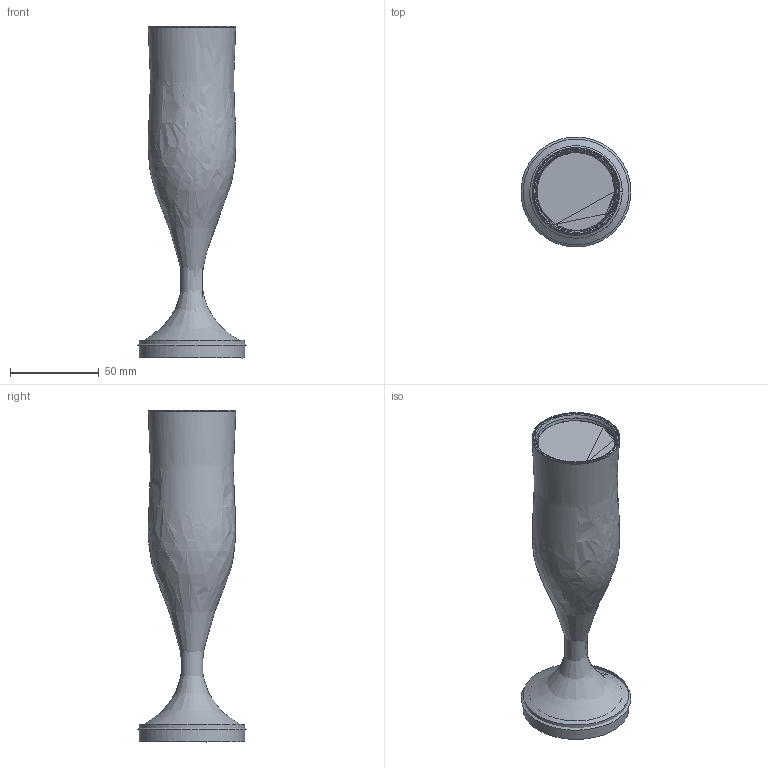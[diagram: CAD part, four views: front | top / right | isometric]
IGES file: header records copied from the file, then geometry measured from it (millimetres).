
Global section: file name: C:\Users\mveid\Desktop\Glass rund.igs; native system: NX V8.0; preprocessor: SIEMENS PLM Software NX 8.0; date: 20140603.161001; units: millimetre
Bounding box: 62 x 61.92 x 187.3 mm (x, y, z)
Surface area: 65811.7 mm2 (no closed solid volume)
Topology: 0 solids, 0 shells, 53 faces, 466 edges, 596 vertices
Faces by surface type: bspline 51, offset 2
